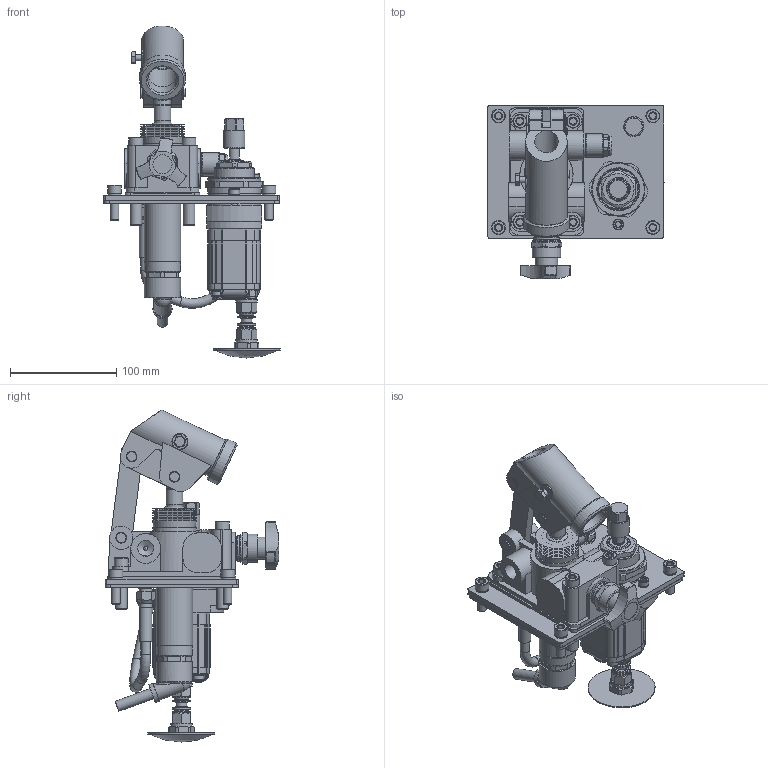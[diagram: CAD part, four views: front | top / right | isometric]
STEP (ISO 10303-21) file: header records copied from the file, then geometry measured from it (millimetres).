
FILE_DESCRIPTION(/* description */ ('Unknown'),/* implementation_level */ '2;1');
FILE_NAME(/* name */ 'ZES---SE--WOTC',/* time_stamp */ '2024-11-28T16:58:43+01:00',/* author */ ('Unknown'),/* organization */ ('Unknown'),/* preprocessor_version */ 'ST-DEVELOPER v19.4',/* originating_system */ 'Solid Edge',/* authorisation */ 'Unknown');
FILE_SCHEMA (('AUTOMOTIVE_DESIGN {1 0 10303 214 3 1 1}'));
Length unit declared in the file: millimetre
Products named in the file (1): ZES---SE--WOTC
Bounding box: 165.5 x 163 x 312.03 mm (x, y, z)
Surface area: 239565.6 mm2
Topology: 2 solids, 112 shells, 1202 faces, 3677 edges, 2530 vertices
Faces by surface type: plane 526, cylinder 403, cone 139, torus 88, bspline 41, sphere 5
Full cylindrical faces by diameter (mm): 4 x2, 5.8 x1, 6 x9, 7.8 x6, 8 x8, 8.1 x1, 8.566 x1, 9 x8, 10 x11, 10.88 x4, 11 x1, 11.5 x1, 11.8 x2, 12 x7, 13 x8, 13.157 x1, 13.5 x1, 14.95 x2, 15.3 x1, 15.8 x1, 16 x4, 17 x3, 18 x5, 19 x1, 20 x4, 21 x1, 22 x4, 23 x2, 24 x1, 26 x1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
Entity records: 45911 total; most frequent: CARTESIAN_POINT 11384, DIRECTION 6619, ORIENTED_EDGE 5500, EDGE_CURVE 3314, AXIS2_PLACEMENT_3D 2604, VERTEX_POINT 2443, FACE_BOUND 1665, EDGE_LOOP 1661
